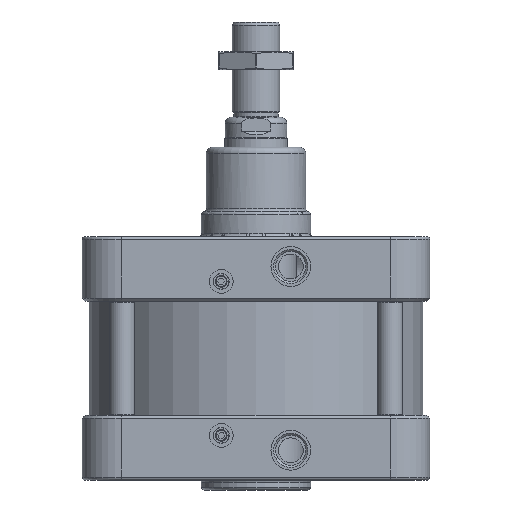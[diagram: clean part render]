
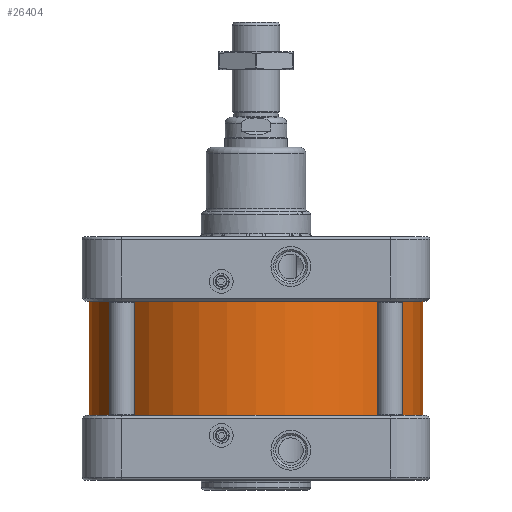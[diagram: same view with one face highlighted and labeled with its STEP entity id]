
A CAD part, front view. The second image highlights one B-rep face of the part: STEP entity #26404.
In plain terms, the highlighted cylindrical face has radius 168 mm (diameter 336 mm), a full revolution.
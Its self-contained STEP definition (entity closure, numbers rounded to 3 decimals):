
#2804=CIRCLE('',#29645,168.);
#2805=CIRCLE('',#29647,168.);
#3478=FACE_BOUND('',#7098,.T.);
#5147=FACE_OUTER_BOUND('',#7097,.T.);
#7097=EDGE_LOOP('',(#22547));
#7098=EDGE_LOOP('',(#22548));
#11979=VERTEX_POINT('',#64759);
#11980=VERTEX_POINT('',#64762);
#15511=EDGE_CURVE('',#11979,#11979,#2804,.T.);
#15512=EDGE_CURVE('',#11980,#11980,#2805,.T.);
#22547=ORIENTED_EDGE('',*,*,#15511,.T.);
#22548=ORIENTED_EDGE('',*,*,#15512,.T.);
#23070=CYLINDRICAL_SURFACE('',#29646,168.);
#26404=ADVANCED_FACE('',(#5147,#3478),#23070,.T.);
#29645=AXIS2_PLACEMENT_3D('',#64760,#36878,#36879);
#29646=AXIS2_PLACEMENT_3D('',#64761,#36880,#36881);
#29647=AXIS2_PLACEMENT_3D('',#64763,#36882,#36883);
#36878=DIRECTION('center_axis',(0.,0.,1.));
#36879=DIRECTION('ref_axis',(-1.,0.,0.));
#36880=DIRECTION('center_axis',(0.,0.,1.));
#36881=DIRECTION('ref_axis',(-1.,0.,0.));
#36882=DIRECTION('center_axis',(0.,0.,-1.));
#36883=DIRECTION('ref_axis',(-1.,0.,0.));
#64759=CARTESIAN_POINT('',(168.,0.,-57.5));
#64760=CARTESIAN_POINT('Origin',(0.,0.,-57.5));
#64761=CARTESIAN_POINT('Origin',(0.,0.,0.));
#64762=CARTESIAN_POINT('',(168.,0.,57.5));
#64763=CARTESIAN_POINT('Origin',(0.,0.,57.5));
